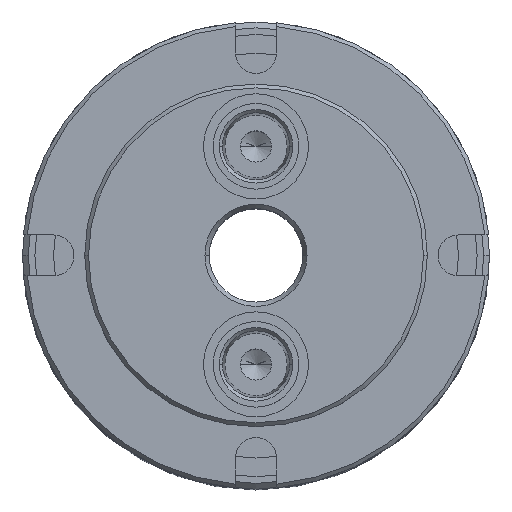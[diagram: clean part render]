
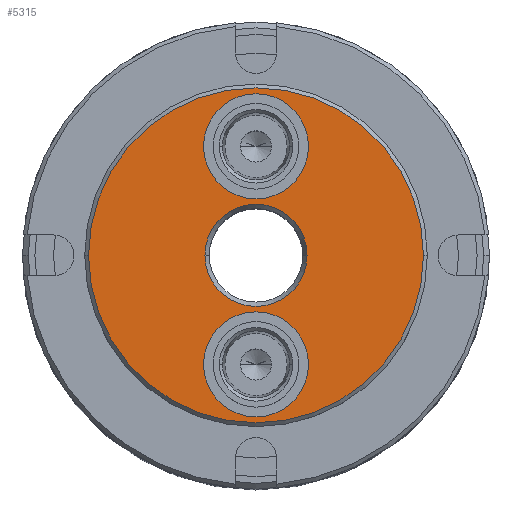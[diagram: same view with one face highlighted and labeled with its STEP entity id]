
A CAD part, top view. The second image highlights one B-rep face of the part: STEP entity #5315.
In plain terms, the highlighted planar face has unit normal (0, 0, 1).
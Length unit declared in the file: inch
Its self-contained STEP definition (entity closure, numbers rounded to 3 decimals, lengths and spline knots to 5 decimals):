
#173 = ORIENTED_EDGE ( 'NONE', *, *, #5367, .F. ) ;
#178 = ORIENTED_EDGE ( 'NONE', *, *, #5645, .F. ) ;
#189 = ORIENTED_EDGE ( 'NONE', *, *, #5370, .T. ) ;
#199 = ORIENTED_EDGE ( 'NONE', *, *, #5505, .F. ) ;
#205 = ORIENTED_EDGE ( 'NONE', *, *, #5420, .F. ) ;
#209 = ORIENTED_EDGE ( 'NONE', *, *, #5491, .T. ) ;
#217 = ORIENTED_EDGE ( 'NONE', *, *, #5521, .T. ) ;
#220 = ORIENTED_EDGE ( 'NONE', *, *, #5458, .T. ) ;
#651 = EDGE_LOOP ( 'NONE', ( #220, #209 ) ) ;
#655 = EDGE_LOOP ( 'NONE', ( #189, #217 ) ) ;
#657 = EDGE_LOOP ( 'NONE', ( #205, #178 ) ) ;
#658 = EDGE_LOOP ( 'NONE', ( #173, #199 ) ) ;
#828 = VERTEX_POINT ( 'NONE', #1076 ) ;
#835 = VERTEX_POINT ( 'NONE', #1083 ) ;
#840 = VERTEX_POINT ( 'NONE', #1088 ) ;
#854 = VERTEX_POINT ( 'NONE', #1102 ) ;
#949 = VERTEX_POINT ( 'NONE', #1197 ) ;
#1002 = VERTEX_POINT ( 'NONE', #1250 ) ;
#1008 = VERTEX_POINT ( 'NONE', #1256 ) ;
#1044 = VERTEX_POINT ( 'NONE', #1292 ) ;
#1076 = CARTESIAN_POINT ( 'NONE',  ( -1.344, 0., 0. ) ) ;
#1083 = CARTESIAN_POINT ( 'NONE',  ( 1.344, 0., 0. ) ) ;
#1088 = CARTESIAN_POINT ( 'NONE',  ( 0.4215, 0.875, 0. ) ) ;
#1102 = CARTESIAN_POINT ( 'NONE',  ( -0.4215, 0.875, 0. ) ) ;
#1197 = CARTESIAN_POINT ( 'NONE',  ( 0.4215, -0.875, 0. ) ) ;
#1250 = CARTESIAN_POINT ( 'NONE',  ( -0.4215, -0.875, 0. ) ) ;
#1256 = CARTESIAN_POINT ( 'NONE',  ( 0.41, 0., 0. ) ) ;
#1292 = CARTESIAN_POINT ( 'NONE',  ( -0.41, 0., 0. ) ) ;
#2309 = CIRCLE ( 'NONE', #2688, 1.344 ) ;
#2377 = AXIS2_PLACEMENT_3D ( 'NONE', #4396, #4397, #4398 ) ;
#2416 = CIRCLE ( 'NONE', #2553, 0.4215 ) ;
#2472 = AXIS2_PLACEMENT_3D ( 'NONE', #4334, #4335, #4336 ) ;
#2553 = AXIS2_PLACEMENT_3D ( 'NONE', #3958, #3959, #3960 ) ;
#2685 = CIRCLE ( 'NONE', #2472, 0.4215 ) ;
#2688 = AXIS2_PLACEMENT_3D ( 'NONE', #4142, #4143, #4144 ) ;
#2753 = CIRCLE ( 'NONE', #2888, 1.344 ) ;
#2788 = CIRCLE ( 'NONE', #2377, 0.41 ) ;
#2888 = AXIS2_PLACEMENT_3D ( 'NONE', #4273, #4274, #4275 ) ;
#2968 = CIRCLE ( 'NONE', #2977, 0.41 ) ;
#2977 = AXIS2_PLACEMENT_3D ( 'NONE', #3728, #3729, #3730 ) ;
#3065 = CIRCLE ( 'NONE', #3214, 0.4215 ) ;
#3081 = AXIS2_PLACEMENT_3D ( 'NONE', #3719, #3720, #3721 ) ;
#3141 = CIRCLE ( 'NONE', #3081, 0.4215 ) ;
#3142 = AXIS2_PLACEMENT_3D ( 'NONE', #3400, #3395, #3404 ) ;
#3214 = AXIS2_PLACEMENT_3D ( 'NONE', #4861, #4862, #4863 ) ;
#3395 = DIRECTION ( 'NONE',  ( 0., 0., -1. ) ) ;
#3396 = PLANE ( 'NONE',  #3142 ) ;
#3397 = FACE_BOUND ( 'NONE', #655, .T. ) ;
#3399 = FACE_BOUND ( 'NONE', #657, .T. ) ;
#3400 = CARTESIAN_POINT ( 'NONE',  ( 0., 0., 0. ) ) ;
#3401 = FACE_BOUND ( 'NONE', #658, .T. ) ;
#3403 = FACE_OUTER_BOUND ( 'NONE', #651, .T. ) ;
#3404 = DIRECTION ( 'NONE',  ( -1., 0., 0. ) ) ;
#3719 = CARTESIAN_POINT ( 'NONE',  ( 0., 0.875, 0. ) ) ;
#3720 = DIRECTION ( 'NONE',  ( 0., 0., 1. ) ) ;
#3721 = DIRECTION ( 'NONE',  ( 1., 0., 0. ) ) ;
#3728 = CARTESIAN_POINT ( 'NONE',  ( 0., 0., 0. ) ) ;
#3729 = DIRECTION ( 'NONE',  ( 0., 0., -1. ) ) ;
#3730 = DIRECTION ( 'NONE',  ( -1., 0., 0. ) ) ;
#3958 = CARTESIAN_POINT ( 'NONE',  ( 0., -0.875, 0. ) ) ;
#3959 = DIRECTION ( 'NONE',  ( 0., 0., 1. ) ) ;
#3960 = DIRECTION ( 'NONE',  ( -1., 0., 0. ) ) ;
#4142 = CARTESIAN_POINT ( 'NONE',  ( 0., 0., 0. ) ) ;
#4143 = DIRECTION ( 'NONE',  ( 0., 0., 1. ) ) ;
#4144 = DIRECTION ( 'NONE',  ( -1., 0., 0. ) ) ;
#4273 = CARTESIAN_POINT ( 'NONE',  ( 0., 0., 0. ) ) ;
#4274 = DIRECTION ( 'NONE',  ( 0., 0., 1. ) ) ;
#4275 = DIRECTION ( 'NONE',  ( -1., 0., 0. ) ) ;
#4334 = CARTESIAN_POINT ( 'NONE',  ( 0., 0.875, 0. ) ) ;
#4335 = DIRECTION ( 'NONE',  ( 0., 0., 1. ) ) ;
#4336 = DIRECTION ( 'NONE',  ( 1., 0., 0. ) ) ;
#4396 = CARTESIAN_POINT ( 'NONE',  ( 0., 0., 0. ) ) ;
#4397 = DIRECTION ( 'NONE',  ( 0., 0., -1. ) ) ;
#4398 = DIRECTION ( 'NONE',  ( -1., 0., 0. ) ) ;
#4861 = CARTESIAN_POINT ( 'NONE',  ( 0., -0.875, 0. ) ) ;
#4862 = DIRECTION ( 'NONE',  ( 0., 0., 1. ) ) ;
#4863 = DIRECTION ( 'NONE',  ( -1., 0., 0. ) ) ;
#5315 = ADVANCED_FACE ( 'NONE', ( #3397, #3399, #3401, #3403 ), #3396, .F. ) ;
#5367 = EDGE_CURVE ( 'NONE', #840, #854, #3141, .T. ) ;
#5370 = EDGE_CURVE ( 'NONE', #1008, #1044, #2968, .T. ) ;
#5420 = EDGE_CURVE ( 'NONE', #949, #1002, #2416, .T. ) ;
#5458 = EDGE_CURVE ( 'NONE', #828, #835, #2309, .T. ) ;
#5491 = EDGE_CURVE ( 'NONE', #835, #828, #2753, .T. ) ;
#5505 = EDGE_CURVE ( 'NONE', #854, #840, #2685, .T. ) ;
#5521 = EDGE_CURVE ( 'NONE', #1044, #1008, #2788, .T. ) ;
#5645 = EDGE_CURVE ( 'NONE', #1002, #949, #3065, .T. ) ;
